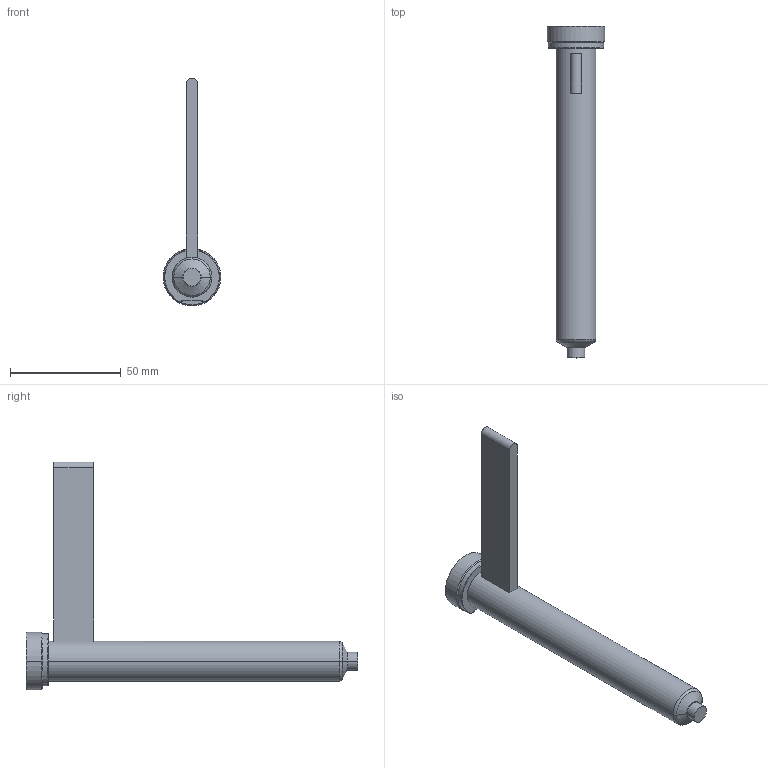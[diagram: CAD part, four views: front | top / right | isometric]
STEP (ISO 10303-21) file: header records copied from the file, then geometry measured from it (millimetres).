
FILE_DESCRIPTION((''),'2;1');
FILE_NAME('EO04_SG_SG_140_COT','2024-02-19T12:12:39',('sundharh'),(''),'CREO PARAMETRIC BY PTC INC, 2023154','CREO PARAMETRIC BY PTC INC, 2023154','');
FILE_SCHEMA(('CONFIG_CONTROL_DESIGN'));
Length unit declared in the file: millimetre
Products named in the file (1): EO04_SG_SG_140_COT
Bounding box: 26 x 150 x 103 mm (x, y, z)
Volume: 46739.6 mm3; surface area: 13162.7 mm2
Topology: 1 solids, 1 shells, 31 faces, 67 edges, 40 vertices
Faces by surface type: cylinder 11, plane 9, torus 7, cone 4
Entity records: 961 total; most frequent: CARTESIAN_POINT 228, DIRECTION 159, ORIENTED_EDGE 134, AXIS2_PLACEMENT_3D 67, EDGE_CURVE 67, VERTEX_POINT 40, CIRCLE 36, EDGE_LOOP 33
